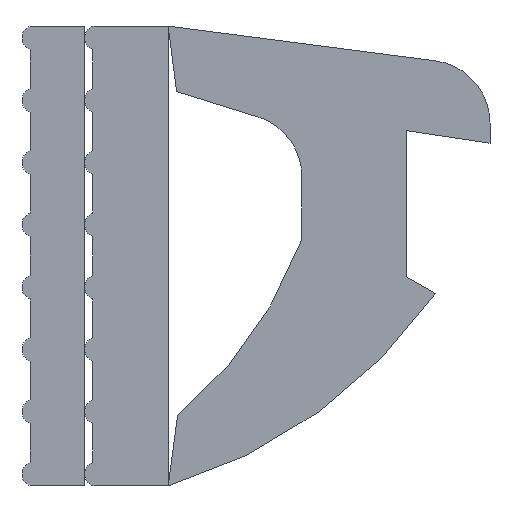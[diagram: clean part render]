
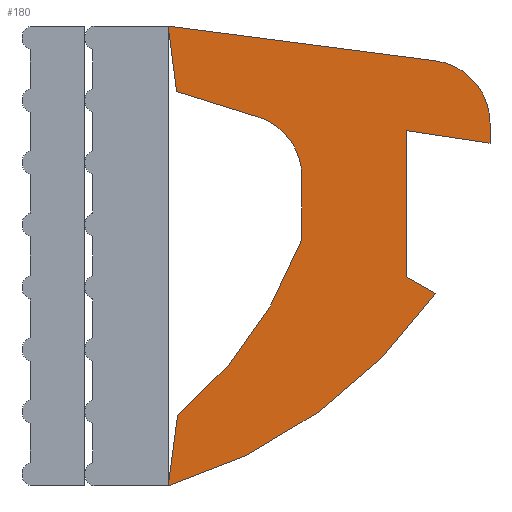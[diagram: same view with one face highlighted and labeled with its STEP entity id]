
A CAD part, front view. The second image highlights one B-rep face of the part: STEP entity #180.
In plain terms, the highlighted planar face has unit normal (0, -1, 0).
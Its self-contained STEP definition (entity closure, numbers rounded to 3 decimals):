
#180=ADVANCED_FACE('',(#348),#349,.T.);
#348=FACE_OUTER_BOUND('',#527,.T.);
#349=PLANE('',#528);
#527=EDGE_LOOP('',(#773,#774,#775,#776,#777,#778,#779,#780,#781,#782,#783,#784,#785));
#528=AXIS2_PLACEMENT_3D('',#786,#787,#788);
#773=ORIENTED_EDGE('',*,*,#1188,.T.);
#774=ORIENTED_EDGE('',*,*,#1191,.T.);
#775=ORIENTED_EDGE('',*,*,#1194,.T.);
#776=ORIENTED_EDGE('',*,*,#1197,.T.);
#777=ORIENTED_EDGE('',*,*,#1200,.T.);
#778=ORIENTED_EDGE('',*,*,#1203,.T.);
#779=ORIENTED_EDGE('',*,*,#1206,.T.);
#780=ORIENTED_EDGE('',*,*,#1209,.T.);
#781=ORIENTED_EDGE('',*,*,#1212,.T.);
#782=ORIENTED_EDGE('',*,*,#1215,.T.);
#783=ORIENTED_EDGE('',*,*,#1218,.T.);
#784=ORIENTED_EDGE('',*,*,#1185,.T.);
#785=ORIENTED_EDGE('',*,*,#1167,.T.);
#786=CARTESIAN_POINT('',(1.7,0.0,7.397));
#787=DIRECTION('',(0.0,-1.0,0.0));
#788=DIRECTION('',(-1.0,0.0,0.0));
#1167=EDGE_CURVE('',#1369,#1370,#1371,.T.);
#1185=EDGE_CURVE('',#1402,#1369,#1403,.T.);
#1188=EDGE_CURVE('',#1370,#1406,#1407,.T.);
#1191=EDGE_CURVE('',#1406,#1410,#1411,.T.);
#1194=EDGE_CURVE('',#1410,#1414,#1415,.T.);
#1197=EDGE_CURVE('',#1414,#1418,#1419,.T.);
#1200=EDGE_CURVE('',#1418,#1422,#1423,.T.);
#1203=EDGE_CURVE('',#1422,#1426,#1427,.T.);
#1206=EDGE_CURVE('',#1426,#1430,#1431,.T.);
#1209=EDGE_CURVE('',#1430,#1434,#1435,.T.);
#1212=EDGE_CURVE('',#1434,#1438,#1439,.T.);
#1215=EDGE_CURVE('',#1438,#1442,#1443,.T.);
#1218=EDGE_CURVE('',#1442,#1402,#1446,.T.);
#1369=VERTEX_POINT('',#1669);
#1370=VERTEX_POINT('',#1670);
#1371=LINE('',#1671,#1672);
#1402=VERTEX_POINT('',#1714);
#1403=CIRCLE('',#1715,1.5);
#1406=VERTEX_POINT('',#1719);
#1407=LINE('',#1720,#1721);
#1410=VERTEX_POINT('',#1725);
#1411=LINE('',#1726,#1727);
#1414=VERTEX_POINT('',#1731);
#1415=CIRCLE('',#1732,1.5);
#1418=VERTEX_POINT('',#1736);
#1419=LINE('',#1737,#1738);
#1422=VERTEX_POINT('',#1742);
#1423=CIRCLE('',#1743,10.0);
#1426=VERTEX_POINT('',#1747);
#1427=LINE('',#1748,#1749);
#1430=VERTEX_POINT('',#1753);
#1431=CIRCLE('',#1754,12.0);
#1434=VERTEX_POINT('',#1758);
#1435=LINE('',#1759,#1760);
#1438=VERTEX_POINT('',#1764);
#1439=LINE('',#1765,#1766);
#1442=VERTEX_POINT('',#1770);
#1443=LINE('',#1771,#1772);
#1446=LINE('',#1776,#1777);
#1669=CARTESIAN_POINT('',(6.393,0.0,10.17));
#1670=CARTESIAN_POINT('',(0.,0.0,11.));
#1671=CARTESIAN_POINT('',(6.393,0.0,10.17));
#1672=VECTOR('',#2075,1.0);
#1714=CARTESIAN_POINT('',(7.7,0.0,8.682));
#1715=AXIS2_PLACEMENT_3D('',#2099,#2100,#2101);
#1719=CARTESIAN_POINT('',(0.2,0.0,9.437));
#1720=CARTESIAN_POINT('',(0.,0.0,11.));
#1721=VECTOR('',#2103,1.0);
#1725=CARTESIAN_POINT('',(2.147,0.0,8.829));
#1726=CARTESIAN_POINT('',(0.2,0.0,9.437));
#1727=VECTOR('',#2105,1.0);
#1731=CARTESIAN_POINT('',(3.2,0.0,7.397));
#1732=AXIS2_PLACEMENT_3D('',#2107,#2108,#2109);
#1736=CARTESIAN_POINT('',(3.2,0.0,5.9));
#1737=CARTESIAN_POINT('',(3.2,0.0,7.397));
#1738=VECTOR('',#2111,1.0);
#1742=CARTESIAN_POINT('',(0.224,0.0,1.682));
#1743=AXIS2_PLACEMENT_3D('',#2113,#2114,#2115);
#1747=CARTESIAN_POINT('',(0.,0.0,0.));
#1748=CARTESIAN_POINT('',(0.224,0.0,1.682));
#1749=VECTOR('',#2117,1.0);
#1753=CARTESIAN_POINT('',(6.4,0.0,4.6));
#1754=AXIS2_PLACEMENT_3D('',#2119,#2120,#2121);
#1758=CARTESIAN_POINT('',(5.7,0.0,5.));
#1759=CARTESIAN_POINT('',(6.4,0.0,4.6));
#1760=VECTOR('',#2123,1.0);
#1764=CARTESIAN_POINT('',(5.7,0.0,8.5));
#1765=CARTESIAN_POINT('',(5.7,0.0,5.));
#1766=VECTOR('',#2125,1.0);
#1770=CARTESIAN_POINT('',(7.7,0.0,8.2));
#1771=CARTESIAN_POINT('',(5.7,0.0,8.5));
#1772=VECTOR('',#2127,1.0);
#1776=CARTESIAN_POINT('',(7.7,0.0,8.2));
#1777=VECTOR('',#2129,1.0);
#2075=DIRECTION('',(-0.992,0.0,0.129));
#2099=CARTESIAN_POINT('',(6.2,0.0,8.682));
#2100=DIRECTION('',(0.0,-1.0,0.0));
#2101=DIRECTION('',(1.0,0.0,0.0));
#2103=DIRECTION('',(0.127,0.0,-0.992));
#2105=DIRECTION('',(0.954,0.0,-0.298));
#2107=CARTESIAN_POINT('',(1.7,0.0,7.397));
#2108=DIRECTION('',(0.0,1.0,0.0));
#2109=DIRECTION('',(-1.0,0.0,0.0));
#2111=DIRECTION('',(0.0,0.0,-1.0));
#2113=CARTESIAN_POINT('',(-6.182,0.0,9.36));
#2114=DIRECTION('',(0.0,1.0,0.0));
#2115=DIRECTION('',(-1.0,0.0,0.0));
#2117=DIRECTION('',(-0.132,0.0,-0.991));
#2119=CARTESIAN_POINT('',(-3.415,0.0,11.504));
#2120=DIRECTION('',(0.0,-1.0,0.0));
#2121=DIRECTION('',(1.0,0.0,0.0));
#2123=DIRECTION('',(-0.868,0.0,0.496));
#2125=DIRECTION('',(0.0,0.0,1.0));
#2127=DIRECTION('',(0.989,0.0,-0.148));
#2129=DIRECTION('',(0.0,0.0,1.0));
